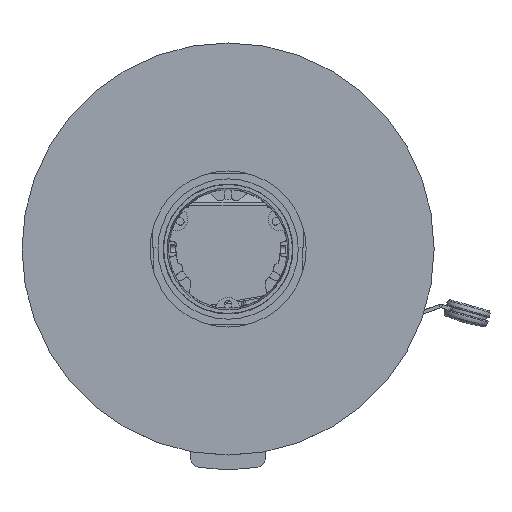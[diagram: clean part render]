
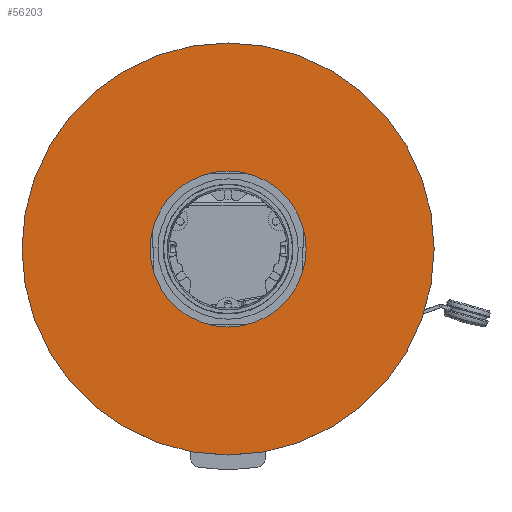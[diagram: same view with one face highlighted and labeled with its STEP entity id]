
A CAD part, top view. The second image highlights one B-rep face of the part: STEP entity #56203.
In plain terms, the highlighted planar face has unit normal (0, 0, 1).
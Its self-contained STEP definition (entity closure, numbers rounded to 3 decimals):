
#587=FACE_BOUND('',#10388,.T.);
#2683=CIRCLE('',#61189,89.);
#2685=CIRCLE('',#61192,235.);
#4424=PLANE('',#61194);
#7239=FACE_OUTER_BOUND('',#10387,.T.);
#10387=EDGE_LOOP('',(#49163));
#10388=EDGE_LOOP('',(#49164));
#26074=VERTEX_POINT('',#100094);
#26076=VERTEX_POINT('',#100100);
#33781=EDGE_CURVE('',#26074,#26074,#2683,.T.);
#33784=EDGE_CURVE('',#26076,#26076,#2685,.T.);
#49163=ORIENTED_EDGE('',*,*,#33784,.T.);
#49164=ORIENTED_EDGE('',*,*,#33781,.T.);
#56203=ADVANCED_FACE('',(#7239,#587),#4424,.T.);
#61189=AXIS2_PLACEMENT_3D('',#100096,#76074,#76075);
#61192=AXIS2_PLACEMENT_3D('',#100102,#76081,#76082);
#61194=AXIS2_PLACEMENT_3D('',#100104,#76085,#76086);
#76074=DIRECTION('center_axis',(0.,0.,-1.));
#76075=DIRECTION('ref_axis',(-1.,0.,0.));
#76081=DIRECTION('center_axis',(0.,0.,1.));
#76082=DIRECTION('ref_axis',(-1.,0.,0.));
#76085=DIRECTION('center_axis',(0.,0.,1.));
#76086=DIRECTION('ref_axis',(-1.,0.,0.));
#100094=CARTESIAN_POINT('',(89.,0.,504.));
#100096=CARTESIAN_POINT('Origin',(0.,0.,
504.));
#100100=CARTESIAN_POINT('',(235.,0.,504.));
#100102=CARTESIAN_POINT('Origin',(0.,0.,
504.));
#100104=CARTESIAN_POINT('Origin',(0.,0.,
504.));
